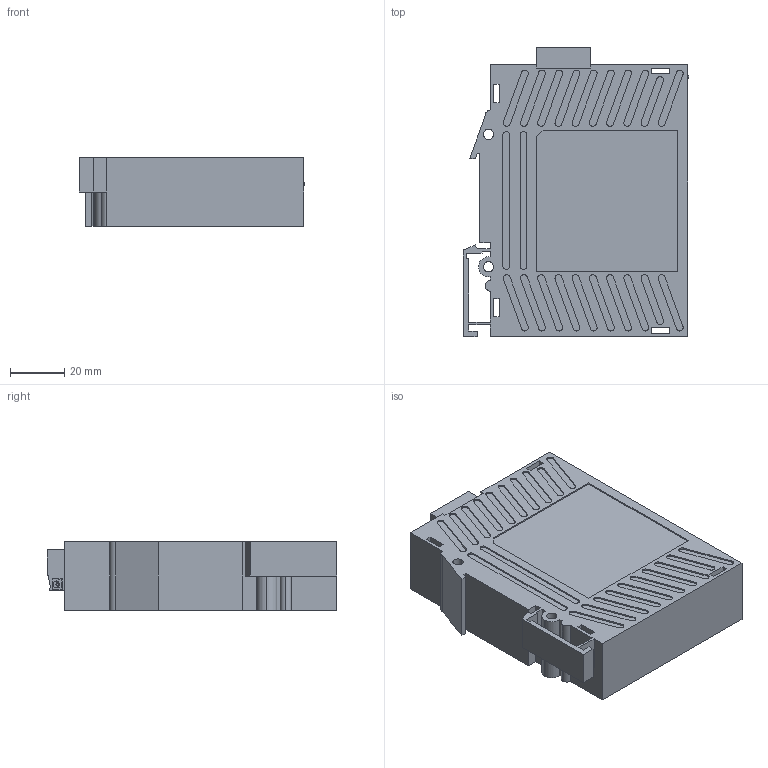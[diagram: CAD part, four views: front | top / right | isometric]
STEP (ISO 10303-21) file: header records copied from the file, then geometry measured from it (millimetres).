
FILE_DESCRIPTION (( 'STEP AP203' ), '1' );
FILE_NAME ('SE20-84X-RJ522.step', '2012-06-28T19:02:02', ( 'Turck User' ), ( '' ), 'SwSTEP 2.0', 'SolidWorks 2012', '' );
FILE_SCHEMA (( 'CONFIG_CONTROL_DESIGN' ));
Products named in the file (1): SE20-84X-RJ522
Bounding box: 83.1 x 106.7 x 25.4 mm (x, y, z)
Volume: 155421.5 mm3; surface area: 48488.4 mm2
Topology: 1 solids, 1 shells, 2614 faces, 7349 edges, 4855 vertices
Faces by surface type: plane 2316, cylinder 242, bspline 54, sphere 2
Entity records: 85524 total; most frequent: CARTESIAN_POINT 17851, ORIENTED_EDGE 14688, DIRECTION 12711, EDGE_CURVE 7344, LINE 6723, VECTOR 6723, VERTEX_POINT 4852, AXIS2_PLACEMENT_3D 2994
